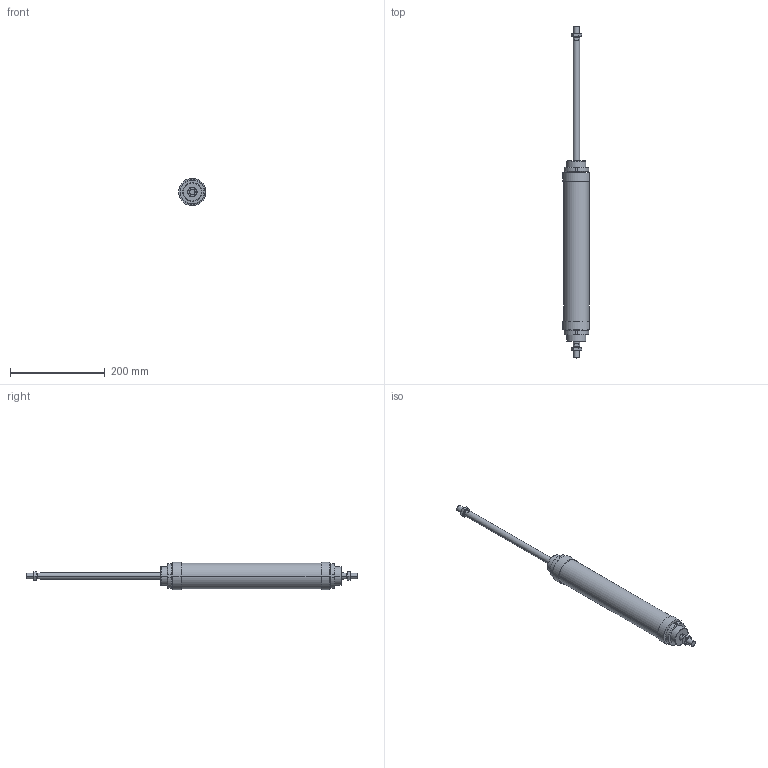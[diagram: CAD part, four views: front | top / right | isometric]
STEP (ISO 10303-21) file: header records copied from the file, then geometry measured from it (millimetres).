
FILE_DESCRIPTION((''),'2;1');
FILE_NAME('I:\DOC-EDP\Lib-3d\1200\CILINDRI\1262\1262_50_0250.stp','2003-04-02T19:16:21',('maffial1'),(''),'Autodesk Inventor (R) 6.0','Autodesk Inventor (R) 6.0','');
FILE_SCHEMA(('AUTOMOTIVE_DESIGN { 1 0 10303 214 1 1 1 1 }'));
Length unit declared in the file: millimetre
Products named in the file (5): 1262_50_0250; S1262_50_250; C1262_50_250; 1200_50_05; 1200_50_06
Assembly tree (6 placements, depth 2):
  1262_50_0250
    S1262_50_250
    C1262_50_250
    1200_50_05  x2
    1200_50_06  x2
Bounding box: 56.6 x 702 x 57.85 mm (x, y, z)
Volume: 898661 mm3; surface area: 127980.3 mm2
Topology: 6 solids, 6 shells, 182 faces, 424 edges, 264 vertices
Faces by surface type: plane 66, cone 56, cylinder 30, bspline 30
Entity records: 3737 total; most frequent: CARTESIAN_POINT 969, DIRECTION 572, ORIENTED_EDGE 548, EDGE_CURVE 274, AXIS2_PLACEMENT_3D 227, VERTEX_POINT 172, EDGE_LOOP 136, FACE_OUTER_BOUND 120
